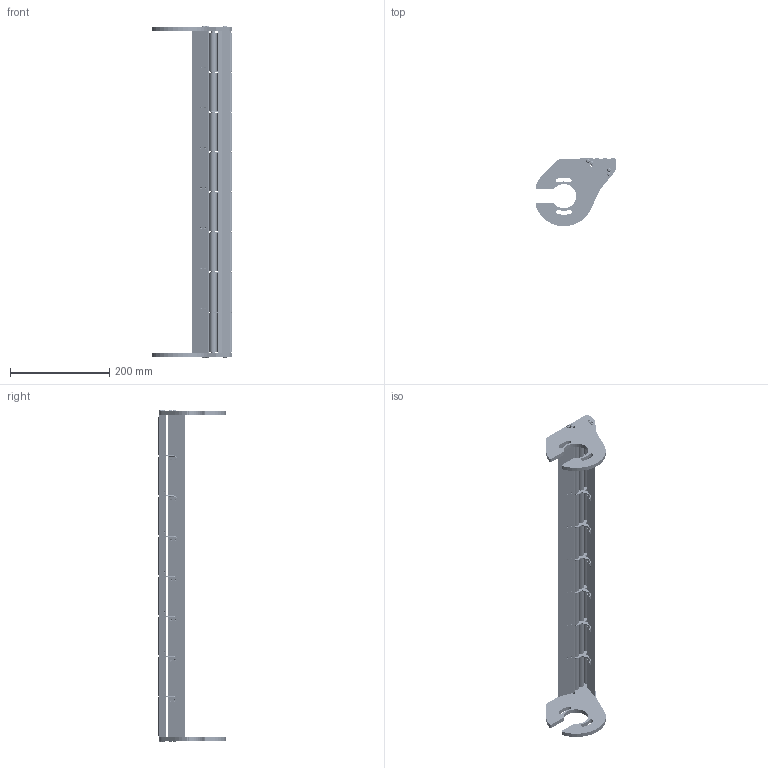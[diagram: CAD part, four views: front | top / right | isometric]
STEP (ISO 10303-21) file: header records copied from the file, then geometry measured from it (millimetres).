
FILE_DESCRIPTION (( 'STEP AP214' ), '1' );
FILE_NAME ('F2 2400 TGRI 1R.STEP', '2024-02-26T14:55:37', ( '' ), ( '' ), 'SwSTEP 2.0', 'SolidWorks 2022', '' );
FILE_SCHEMA (( 'AUTOMOTIVE_DESIGN' ));
Length unit declared in the file: millimetre
Products named in the file (13): SA TGRI; F2 2400 TGRI 1R; PSTI F2 1R Symétrie; ENTRETOISE TGRI CAB-F2-R-HEF; SA TGRI + ENTRETOISE; ROULEMENT TGRI CAB-F2-R-HEF; ENTRETOISE SA TGRI; PT-F2 - F2-2400 ALU; GR F2 2400; TBHC 4X16; PSTI F2 1R; AXE TGRI F2 2400; Galet + roulement F2 2400
Assembly tree (59 placements, depth 3):
  F2 2400 TGRI 1R
    PSTI F2 1R
    PSTI F2 1R Symétrie
    PT-F2 - F2-2400 ALU  x2
    AXE TGRI F2 2400  x3
    Galet + roulement F2 2400  x24
      GR F2 2400
      ROULEMENT TGRI CAB-F2-R-HEF
    ENTRETOISE TGRI CAB-F2-R-HEF  x6
    SA TGRI + ENTRETOISE  x7
      SA TGRI
      ENTRETOISE SA TGRI
    TBHC 4X16  x8
Bounding box: 162.87 x 136.6 x 667.78 mm (x, y, z)
Volume: 818655.6 mm3; surface area: 392928.7 mm2
Topology: 121 solids, 121 shells, 4097 faces, 9215 edges, 5523 vertices
Faces by surface type: cylinder 1517, cone 1032, plane 721, torus 701, sphere 91, bspline 35
Entity records: 17493 total; most frequent: CARTESIAN_POINT 3263, DIRECTION 3122, ORIENTED_EDGE 2558, EDGE_CURVE 1279, AXIS2_PLACEMENT_3D 1273, VERTEX_POINT 775, CIRCLE 665, EDGE_LOOP 606
